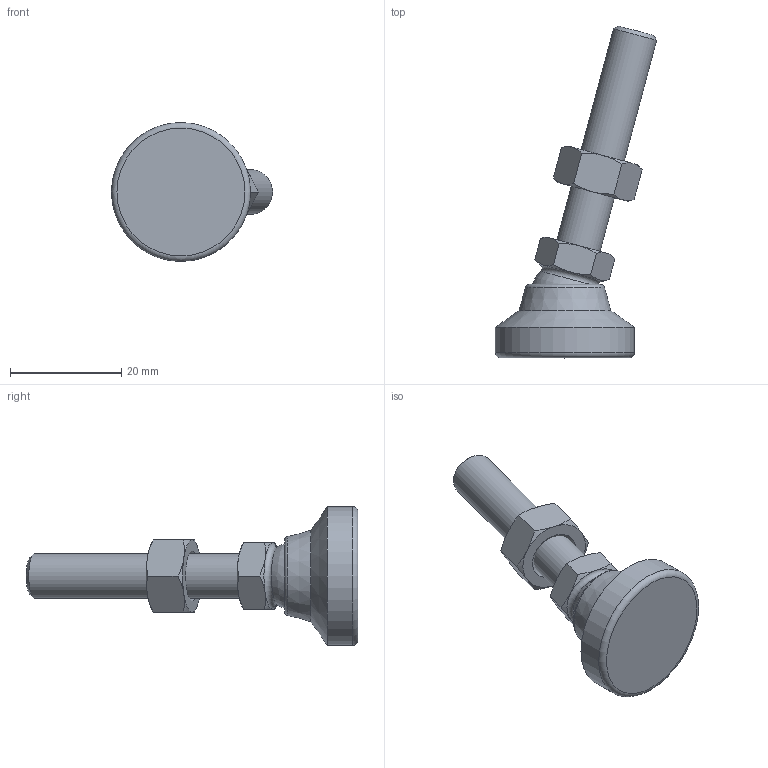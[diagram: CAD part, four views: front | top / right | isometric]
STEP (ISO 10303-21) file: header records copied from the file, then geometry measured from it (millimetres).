
FILE_DESCRIPTION( ( 'STEP AP214' ), ' ' );
FILE_NAME( 'O:/ganter_2015/teil_2/2_5/gn343_2/gn343_2_kse/Levelling foot with threaded stud GN 343.2-25-M8-40-KSE-(-15).stp', '2015-10-26T09:15:06', ( '' ), ( '' ), ' ', 'PARTsolutions', ' ' );
FILE_SCHEMA( ( 'AUTOMOTIVE_DESIGN { 1 0 10303 214 1 1 1 1 }' ) );
Length unit declared in the file: millimetre
Products named in the file (4): Levelling foot with threaded stud GN 343.2-25-M8-40-KSE-(-15); _Levelling foot with threaded stud GN 343.2-25-M8-40-KSE-(-15)_foot; _Levelling foot with threaded stud GN 343.2-25-M8-40-KSE-(-15)_screw; _Levelling foot with threaded stud GN 343.2-25-M8-40-KSE-(-15)_nut
Assembly tree (3 placements, depth 2):
  Levelling foot with threaded stud GN 343.2-25-M8-40-KSE-(-15)
    _Levelling foot with threaded stud GN 343.2-25-M8-40-KSE-(-15)_foot
    _Levelling foot with threaded stud GN 343.2-25-M8-40-KSE-(-15)_screw
    _Levelling foot with threaded stud GN 343.2-25-M8-40-KSE-(-15)_nut
Bounding box: 28.97 x 59.67 x 25 mm (x, y, z)
Volume: 8143.4 mm3; surface area: 4218.3 mm2
Topology: 3 solids, 3 shells, 50 faces, 107 edges, 63 vertices
Faces by surface type: cone 24, plane 18, torus 3, cylinder 3, sphere 2
Full cylindrical faces by diameter (mm): 6.647 x1, 8 x1, 25 x1
Entity records: 1858 total; most frequent: CARTESIAN_POINT 452, DIRECTION 188, ORIENTED_EDGE 176, AXIS2_PLACEMENT_3D 88, EDGE_CURVE 88, EDGE_LOOP 66, VERTEX_POINT 60, FACE_OUTER_BOUND 56
